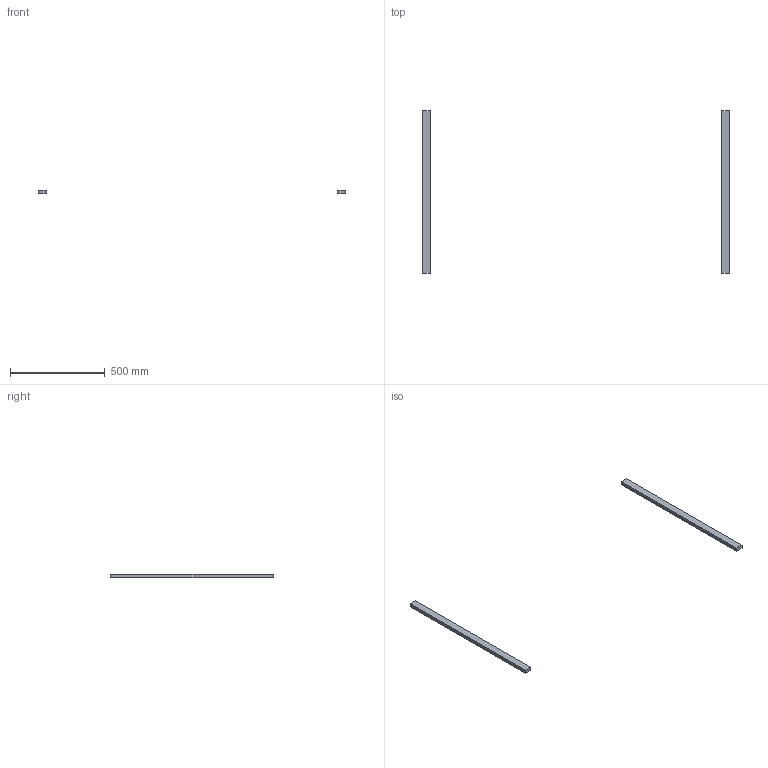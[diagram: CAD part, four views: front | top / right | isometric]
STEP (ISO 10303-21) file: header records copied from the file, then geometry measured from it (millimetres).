
FILE_DESCRIPTION(/* description */ (''),/* implementation_level */ '2;1');
FILE_NAME(/* name */ '1.frame-bottom#1.2#HFS5-2040-860',/* time_stamp */ '2014-12-01T20:10:37+01:00',/* author */ (''),/* organization */ (''),/* preprocessor_version */ 'ST-DEVELOPER v14',/* originating_system */ '',/* authorisation */ '');
FILE_SCHEMA (('AUTOMOTIVE_DESIGN'));
Length unit declared in the file: millimetre
Products named in the file (1): Document
Bounding box: 1620 x 860 x 20 mm (x, y, z)
Volume: 1376000 mm3; surface area: 209600 mm2
Topology: 2 solids, 2 shells, 12 faces, 24 edges, 16 vertices
Faces by surface type: plane 12
Entity records: 571 total; most frequent: CARTESIAN_POINT 174, B_SPLINE_CURVE_WITH_KNOTS 72, ORIENTED_EDGE 48, PCURVE 48, DEFINITIONAL_REPRESENTATION 48, SURFACE_CURVE 24, EDGE_CURVE 24, VERTEX_POINT 16
